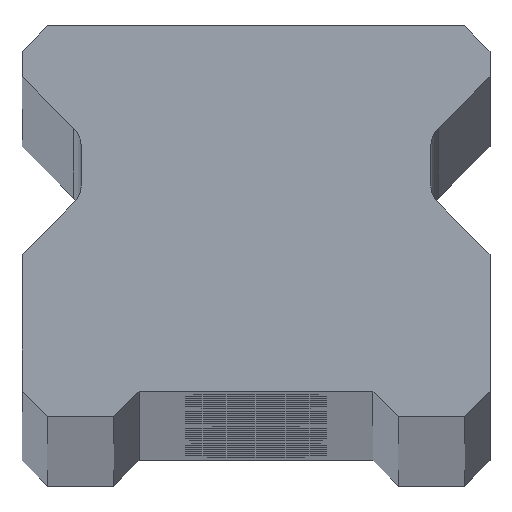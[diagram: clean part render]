
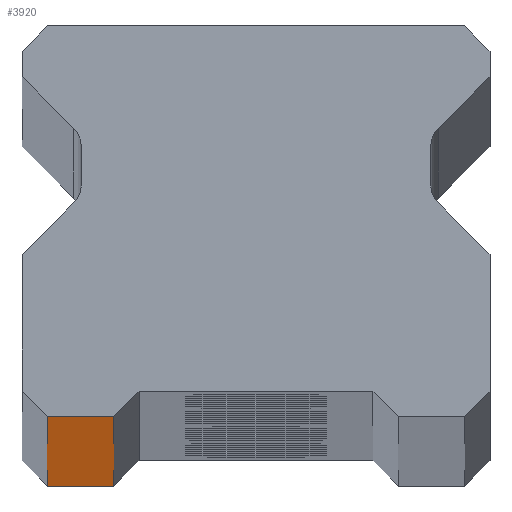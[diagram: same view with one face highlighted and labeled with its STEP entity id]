
A CAD part, top view. The second image highlights one B-rep face of the part: STEP entity #3920.
In plain terms, the highlighted planar face has unit normal (0, -1, 0).
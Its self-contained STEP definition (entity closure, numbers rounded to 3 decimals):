
#331 = VECTOR ( 'NONE', #3527, 1000. ) ;
#399 = VERTEX_POINT ( 'NONE', #5829 ) ;
#400 = ORIENTED_EDGE ( 'NONE', *, *, #5832, .T. ) ;
#419 = VERTEX_POINT ( 'NONE', #5323 ) ;
#420 = EDGE_CURVE ( 'NONE', #2736, #399, #3074, .T. ) ;
#470 = VERTEX_POINT ( 'NONE', #747 ) ;
#556 = ORIENTED_EDGE ( 'NONE', *, *, #3948, .T. ) ;
#747 = CARTESIAN_POINT ( 'NONE',  ( -7., 0., -980. ) ) ;
#794 = VECTOR ( 'NONE', #4779, 1000. ) ;
#809 = DIRECTION ( 'NONE',  ( 0., 0., -1. ) ) ;
#1233 = VECTOR ( 'NONE', #809, 1000. ) ;
#1303 = PLANE ( 'NONE',  #1433 ) ;
#1320 = DIRECTION ( 'NONE',  ( -1., 0., 0. ) ) ;
#1331 = ORIENTED_EDGE ( 'NONE', *, *, #420, .F. ) ;
#1426 = LINE ( 'NONE', #5362, #4759 ) ;
#1433 = AXIS2_PLACEMENT_3D ( 'NONE', #5928, #2732, #1320 ) ;
#1633 = CARTESIAN_POINT ( 'NONE',  ( 11.5, 0., -980. ) ) ;
#2026 = LINE ( 'NONE', #2194, #1233 ) ;
#2072 = CARTESIAN_POINT ( 'NONE',  ( -10.25, 0., 980. ) ) ;
#2194 = CARTESIAN_POINT ( 'NONE',  ( -10.25, 0., 980. ) ) ;
#2732 = DIRECTION ( 'NONE',  ( 0., 1., 0. ) ) ;
#2736 = VERTEX_POINT ( 'NONE', #2072 ) ;
#2815 = LINE ( 'NONE', #1633, #794 ) ;
#2922 = ORIENTED_EDGE ( 'NONE', *, *, #3679, .T. ) ;
#3074 = LINE ( 'NONE', #4442, #331 ) ;
#3527 = DIRECTION ( 'NONE',  ( 1., 0., 0. ) ) ;
#3679 = EDGE_CURVE ( 'NONE', #419, #470, #2815, .T. ) ;
#3920 = ADVANCED_FACE ( 'NONE', ( #4857 ), #1303, .F. ) ;
#3948 = EDGE_CURVE ( 'NONE', #2736, #419, #2026, .T. ) ;
#4442 = CARTESIAN_POINT ( 'NONE',  ( 11.5, 0., 980. ) ) ;
#4759 = VECTOR ( 'NONE', #4825, 1000. ) ;
#4779 = DIRECTION ( 'NONE',  ( 1., 0., 0. ) ) ;
#4825 = DIRECTION ( 'NONE',  ( 0., 0., 1. ) ) ;
#4857 = FACE_OUTER_BOUND ( 'NONE', #5016, .T. ) ;
#5016 = EDGE_LOOP ( 'NONE', ( #2922, #400, #1331, #556 ) ) ;
#5323 = CARTESIAN_POINT ( 'NONE',  ( -10.25, 0., -980. ) ) ;
#5362 = CARTESIAN_POINT ( 'NONE',  ( -7., 0., -980. ) ) ;
#5829 = CARTESIAN_POINT ( 'NONE',  ( -7., 0., 980. ) ) ;
#5832 = EDGE_CURVE ( 'NONE', #470, #399, #1426, .T. ) ;
#5928 = CARTESIAN_POINT ( 'NONE',  ( 11.5, 0., 980. ) ) ;
